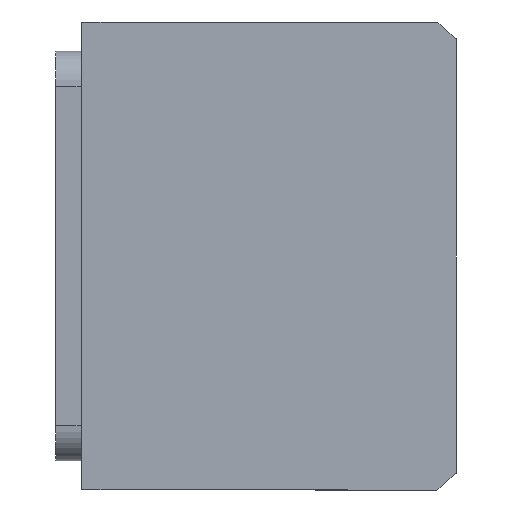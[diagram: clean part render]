
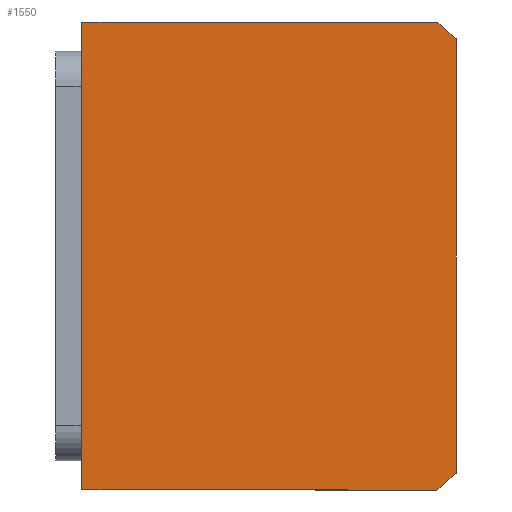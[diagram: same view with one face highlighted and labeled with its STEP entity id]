
A CAD part, front view. The second image highlights one B-rep face of the part: STEP entity #1550.
In plain terms, the highlighted planar face has unit normal (0, -1, 0) as drawn and (0, 0, -1) by its records, which use the part's own axes.
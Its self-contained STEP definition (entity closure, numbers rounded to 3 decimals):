
#218 = CARTESIAN_POINT ( 'NONE',  ( -40., -72.145, 0. ) ) ;
#675 = EDGE_LOOP ( 'NONE', ( #3585, #7011, #4538, #4329, #8324, #3246 ) ) ;
#1051 = DIRECTION ( 'NONE',  ( 0., 0., 1. ) ) ;
#1086 = CARTESIAN_POINT ( 'NONE',  ( 37.094, -75.507, 0. ) ) ;
#1339 = DIRECTION ( 'NONE',  ( 0., 1., 0. ) ) ;
#1550 = ADVANCED_FACE ( 'NONE', ( #6007 ), #8798, .F. ) ;
#1998 = DIRECTION ( 'NONE',  ( 0., 0., 1. ) ) ;
#2235 = EDGE_CURVE ( 'NONE', #3836, #3666, #5389, .T. ) ;
#2412 = CARTESIAN_POINT ( 'NONE',  ( -40., -11.507, 0. ) ) ;
#2474 = CARTESIAN_POINT ( 'NONE',  ( 0., 0., 0. ) ) ;
#2583 = DIRECTION ( 'NONE',  ( 1., 0., 0. ) ) ;
#2632 = EDGE_CURVE ( 'NONE', #8995, #3223, #8570, .T. ) ;
#2910 = VECTOR ( 'NONE', #2583, 1000. ) ;
#3017 = AXIS2_PLACEMENT_3D ( 'NONE', #2474, #4126, #8369 ) ;
#3146 = CARTESIAN_POINT ( 'NONE',  ( -37.094, -75.507, 0. ) ) ;
#3223 = VERTEX_POINT ( 'NONE', #5844 ) ;
#3246 = ORIENTED_EDGE ( 'NONE', *, *, #3858, .F. ) ;
#3438 = AXIS2_PLACEMENT_3D ( 'NONE', #6696, #1998, #7489 ) ;
#3585 = ORIENTED_EDGE ( 'NONE', *, *, #2235, .F. ) ;
#3605 = CARTESIAN_POINT ( 'NONE',  ( 40., -11.507, 0. ) ) ;
#3666 = VERTEX_POINT ( 'NONE', #3146 ) ;
#3836 = VERTEX_POINT ( 'NONE', #218 ) ;
#3858 = EDGE_CURVE ( 'NONE', #3666, #8995, #5005, .T. ) ;
#4126 = DIRECTION ( 'NONE',  ( 0., 0., 1. ) ) ;
#4329 = ORIENTED_EDGE ( 'NONE', *, *, #7371, .F. ) ;
#4425 = CARTESIAN_POINT ( 'NONE',  ( 40., -11.507, 0. ) ) ;
#4538 = ORIENTED_EDGE ( 'NONE', *, *, #4671, .F. ) ;
#4671 = EDGE_CURVE ( 'NONE', #9713, #8718, #8926, .T. ) ;
#4741 = VECTOR ( 'NONE', #8787, 1000. ) ;
#4871 = CARTESIAN_POINT ( 'NONE',  ( -40., -11.507, 0. ) ) ;
#5005 = LINE ( 'NONE', #8033, #2910 ) ;
#5010 = VECTOR ( 'NONE', #5892, 1000. ) ;
#5389 = CIRCLE ( 'NONE', #6262, 51. ) ;
#5693 = EDGE_CURVE ( 'NONE', #8718, #3836, #7082, .T. ) ;
#5776 = CARTESIAN_POINT ( 'NONE',  ( 0., -40.507, 0. ) ) ;
#5844 = CARTESIAN_POINT ( 'NONE',  ( 40., -72.145, 0. ) ) ;
#5892 = DIRECTION ( 'NONE',  ( 0., -1., 0. ) ) ;
#6007 = FACE_OUTER_BOUND ( 'NONE', #675, .T. ) ;
#6262 = AXIS2_PLACEMENT_3D ( 'NONE', #5776, #1051, #6544 ) ;
#6544 = DIRECTION ( 'NONE',  ( 1., 0., 0. ) ) ;
#6696 = CARTESIAN_POINT ( 'NONE',  ( 0., -40.507, 0. ) ) ;
#7011 = ORIENTED_EDGE ( 'NONE', *, *, #5693, .F. ) ;
#7082 = LINE ( 'NONE', #8211, #5010 ) ;
#7371 = EDGE_CURVE ( 'NONE', #3223, #9713, #10158, .T. ) ;
#7489 = DIRECTION ( 'NONE',  ( 1., 0., 0. ) ) ;
#8033 = CARTESIAN_POINT ( 'NONE',  ( -40., -75.507, 0. ) ) ;
#8211 = CARTESIAN_POINT ( 'NONE',  ( -40., -11.507, 0. ) ) ;
#8324 = ORIENTED_EDGE ( 'NONE', *, *, #2632, .F. ) ;
#8369 = DIRECTION ( 'NONE',  ( 1., 0., 0. ) ) ;
#8570 = CIRCLE ( 'NONE', #3438, 51. ) ;
#8691 = VECTOR ( 'NONE', #1339, 1000. ) ;
#8718 = VERTEX_POINT ( 'NONE', #2412 ) ;
#8787 = DIRECTION ( 'NONE',  ( -1., 0., 0. ) ) ;
#8798 = PLANE ( 'NONE',  #3017 ) ;
#8926 = LINE ( 'NONE', #4871, #4741 ) ;
#8995 = VERTEX_POINT ( 'NONE', #1086 ) ;
#9713 = VERTEX_POINT ( 'NONE', #3605 ) ;
#10158 = LINE ( 'NONE', #4425, #8691 ) ;
